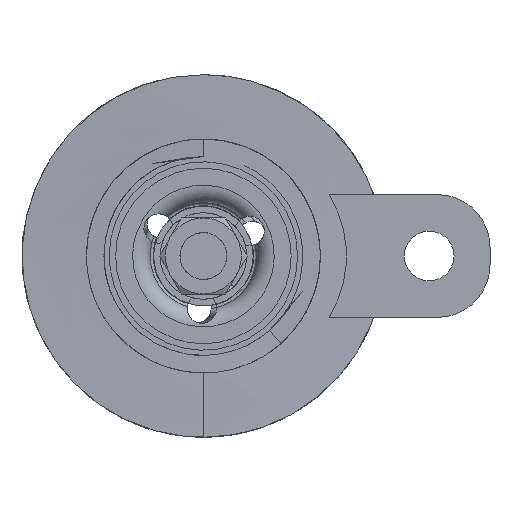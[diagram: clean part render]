
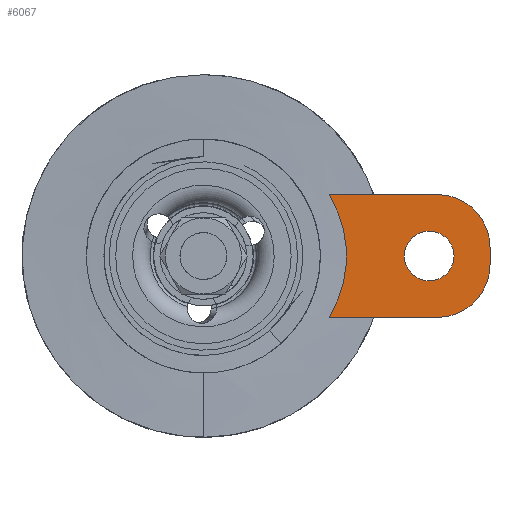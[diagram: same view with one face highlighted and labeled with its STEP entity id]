
A CAD part, front view. The second image highlights one B-rep face of the part: STEP entity #6067.
In plain terms, the highlighted planar face has unit normal (0, -1, 0) as drawn and (0, 0, -1) by its records, which use the part's own axes.
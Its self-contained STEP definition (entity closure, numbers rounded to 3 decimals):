
#167=FACE_BOUND('',#811,.T.);
#182=PLANE('',#6615);
#478=FACE_OUTER_BOUND('',#810,.T.);
#810=EDGE_LOOP('',(#5205,#5206,#5207,#5208,#5209,#5210));
#811=EDGE_LOOP('',(#5211));
#899=CIRCLE('',#6606,20.1);
#904=CIRCLE('',#6613,9.);
#905=CIRCLE('',#6616,9.);
#906=CIRCLE('',#6617,4.25);
#1754=LINE('',#32507,#2056);
#1756=LINE('',#32511,#2058);
#1757=LINE('',#32513,#2059);
#2056=VECTOR('',#7601,10.);
#2058=VECTOR('',#7605,10.);
#2059=VECTOR('',#7608,10.);
#2607=VERTEX_POINT('',#32479);
#2608=VERTEX_POINT('',#32480);
#2616=VERTEX_POINT('',#32500);
#2617=VERTEX_POINT('',#32502);
#2618=VERTEX_POINT('',#32506);
#2619=VERTEX_POINT('',#32510);
#2620=VERTEX_POINT('',#32514);
#3483=EDGE_CURVE('',#2607,#2608,#899,.T.);
#3494=EDGE_CURVE('',#2616,#2617,#904,.T.);
#3496=EDGE_CURVE('',#2617,#2618,#1754,.T.);
#3498=EDGE_CURVE('',#2619,#2608,#1756,.T.);
#3499=EDGE_CURVE('',#2618,#2619,#905,.T.);
#3500=EDGE_CURVE('',#2607,#2616,#1757,.T.);
#3501=EDGE_CURVE('',#2620,#2620,#906,.T.);
#5205=ORIENTED_EDGE('',*,*,#3483,.T.);
#5206=ORIENTED_EDGE('',*,*,#3498,.F.);
#5207=ORIENTED_EDGE('',*,*,#3499,.F.);
#5208=ORIENTED_EDGE('',*,*,#3496,.F.);
#5209=ORIENTED_EDGE('',*,*,#3494,.F.);
#5210=ORIENTED_EDGE('',*,*,#3500,.F.);
#5211=ORIENTED_EDGE('',*,*,#3501,.T.);
#6067=ADVANCED_FACE('',(#478,#167),#182,.F.);
#6606=AXIS2_PLACEMENT_3D('',#32481,#7576,#7577);
#6613=AXIS2_PLACEMENT_3D('',#32503,#7596,#7597);
#6615=AXIS2_PLACEMENT_3D('',#32509,#7603,#7604);
#6616=AXIS2_PLACEMENT_3D('',#32512,#7606,#7607);
#6617=AXIS2_PLACEMENT_3D('',#32515,#7609,#7610);
#7576=DIRECTION('center_axis',(0.,0.,1.));
#7577=DIRECTION('ref_axis',(1.,0.,0.));
#7596=DIRECTION('center_axis',(0.,0.,1.));
#7597=DIRECTION('ref_axis',(0.707,0.707,0.));
#7601=DIRECTION('',(-1.,0.,0.));
#7603=DIRECTION('center_axis',(0.,0.,1.));
#7604=DIRECTION('ref_axis',(1.,0.,0.));
#7605=DIRECTION('',(0.,-1.,0.));
#7606=DIRECTION('center_axis',(0.,0.,1.));
#7607=DIRECTION('ref_axis',(-0.707,0.707,0.));
#7608=DIRECTION('',(0.,1.,0.));
#7609=DIRECTION('center_axis',(0.,0.,1.));
#7610=DIRECTION('ref_axis',(1.,0.,0.));
#32479=CARTESIAN_POINT('',(21.,0.,0.));
#32480=CARTESIAN_POINT('',(0.,0.,0.));
#32481=CARTESIAN_POINT('Origin',(10.5,-17.139,0.));
#32500=CARTESIAN_POINT('',(21.,18.5,0.));
#32502=CARTESIAN_POINT('',(12.,27.5,0.));
#32503=CARTESIAN_POINT('Origin',(12.,18.5,0.));
#32506=CARTESIAN_POINT('',(9.,27.5,0.));
#32507=CARTESIAN_POINT('',(21.,27.5,0.));
#32509=CARTESIAN_POINT('Origin',(10.5,13.75,0.));
#32510=CARTESIAN_POINT('',(0.,18.5,0.));
#32511=CARTESIAN_POINT('',(0.,27.5,0.));
#32512=CARTESIAN_POINT('Origin',(9.,18.5,0.));
#32513=CARTESIAN_POINT('',(21.,0.,0.));
#32514=CARTESIAN_POINT('',(6.25,17.1,0.));
#32515=CARTESIAN_POINT('Origin',(10.5,17.1,0.));
